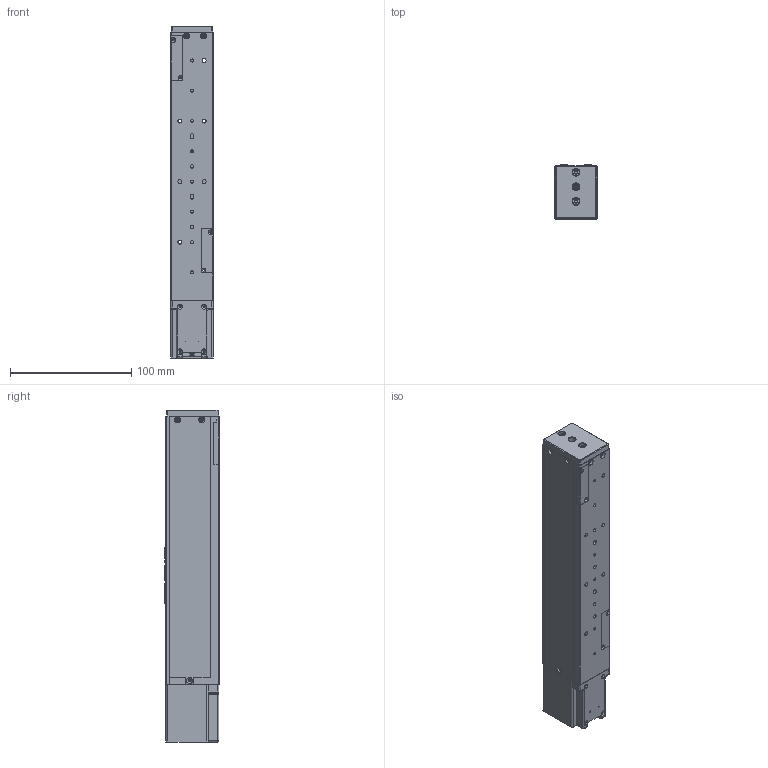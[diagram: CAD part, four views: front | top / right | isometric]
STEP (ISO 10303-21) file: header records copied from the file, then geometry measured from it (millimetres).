
FILE_DESCRIPTION (( 'STEP AP203' ), '1' );
FILE_NAME ('EM35A47-B06P150.STEP', '2023-10-28T06:12:49', ( '' ), ( '' ), 'SwSTEP 2.0', 'SolidWorks 2023', '' );
FILE_SCHEMA (( 'CONFIG_CONTROL_DESIGN' ));
Length unit declared in the file: millimetre
Products named in the file (14): MGN12C-206导轨; 35分体轴承座; 35-150分体侧板; 35A47.3端子盖; 35光电开关滑台安装座; 35-150光电滑台分体基座; 0606螺母; EM35A47-B06P150; 28-42前导光片; MGN12C滑块; 35-150光电滑台盖板; 28-42后导光片; 35A47-GZ0606-222; 35轴承调节板
Assembly tree (14 placements, depth 2):
  EM35A47-B06P150
    35-150光电滑台分体基座
    MGN12C-206导轨
    MGN12C滑块
    35光电开关滑台安装座
    0606螺母
    35A47-GZ0606-222
    35分体轴承座
    35-150分体侧板  x2
    35-150光电滑台盖板
    35轴承调节板
    28-42前导光片
    28-42后导光片
    35A47.3端子盖
Bounding box: 35 x 45 x 274.3 mm (x, y, z)
Volume: 233764.8 mm3; surface area: 126029.7 mm2
Topology: 14 solids, 14 shells, 960 faces, 2601 edges, 1639 vertices
Faces by surface type: cylinder 449, plane 379, cone 115, torus 7, bspline 6, sphere 4
Entity records: 48481 total; most frequent: CARTESIAN_POINT 23329, DIRECTION 5003, ORIENTED_EDGE 4922, EDGE_CURVE 2461, AXIS2_PLACEMENT_3D 1788, VERTEX_POINT 1593, LINE 1427, VECTOR 1427
